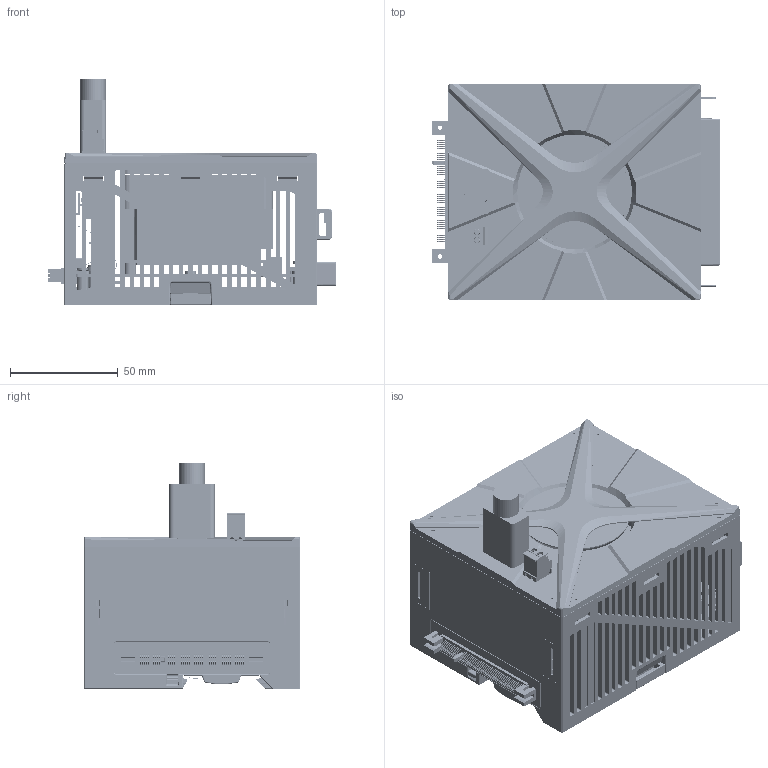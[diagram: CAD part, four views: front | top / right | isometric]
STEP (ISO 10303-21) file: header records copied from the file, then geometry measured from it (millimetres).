
FILE_DESCRIPTION((''),'2;1');
FILE_NAME('0-SX20_ASM','2023-09-12T',('lsx'),(''),'CREO PARAMETRIC BY PTC INC, 2016050','CREO PARAMETRIC BY PTC INC, 2016050','');
FILE_SCHEMA(('AUTOMOTIVE_DESIGN { 1 0 10303 214 1 1 1 1 }'));
Products named in the file (46): 0-SX-20_SKEL; 01-PCB-EX; 10025026-X0XX2C-0424; C426232_PCI-E0_5MMP; EX-TOP; EX-BOT; 01-PCB-EX_ASM; 01-PCB-JKB; HDMI-TOP; HDMI-BOT; DP-SMD_3VD51203-3D6A-7H; HDMI-G; 15EDGRC-THR-3_81-02P-13-00A_H_; 15EDGKB-3_81-02P-1Y-100A_H_; 15EDG_ASM; A3963WR; A3963WR-M1; A3963WR_ASM; 01-PPCB-JKB_ASM; 01-PCB_JKB_ZJ; M3XL5; 01-PC; SW-P-M3-L6; 01-PCB_JKB_ZJ_ASM; EGX-MXM-A1000-2000_A2_ASSY; COPPER-STUD-M3; 01-PCB-FPC; 01-EX-HARDWARE-STACKING_ASM; ZZ; 01-02-EXTENSION-MODULE_ASM; 01-02-BACK-COVER; 03-04-05-RIGHT-COVER; BACK-COVER2; BACK-COVER3; BACK-COVER1; 01-02-TOP-COVER-2; TP-1_32; 02-TOP-COVER; DDM-02; 01-02-PC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
Assembly tree (62 placements, depth 6):
  0-SX20_ASM
    0-SX-20_SKEL
    01-02-EXTENSION-MODULE_ASM
      01-EX-HARDWARE-STACKING_ASM
        01-PCB-EX_ASM
          01-PCB-EX
          10025026-X0XX2C-0424
          C426232_PCI-E0_5MMP
          EX-TOP
          EX-BOT
        01-PPCB-JKB_ASM
          01-PCB-JKB
          HDMI-TOP
          HDMI-BOT
          DP-SMD_3VD51203-3D6A-7H
          HDMI-G
          15EDG_ASM
            15EDGRC-THR-3_81-02P-13-00A_H_
            15EDGKB-3_81-02P-1Y-100A_H_
          A3963WR_ASM
            A3963WR
            A3963WR-M1
        01-PCB_JKB_ZJ_ASM
          01-PCB_JKB_ZJ
          M3XL5  x4
          01-PC
          SW-P-M3-L6  x6
        EGX-MXM-A1000-2000_A2_ASSY
        COPPER-STUD-M3  x2
        01-PCB-FPC
        A3963WR_ASM
          A3963WR
          A3963WR-M1
      ZZ
      10025026-X0XX2C-0424
    01-02-EXTENSION-MODULE-COVER_ASM
      01-EXTENSION-MODULE-COVER_ASM
        01-02-BACK-COVER
        03-04-05-RIGHT-COVER
        BACK-COVER2
        BACK-COVER3
        BACK-COVER1
        01-02-TOP-COVER-2
        TP-1_32
        02-TOP-COVER
        DDM-02
        01-02-PC
        SW-P-M3-L6  x6
        TP-2_14
      LOCK-1
      LOCK-2
Bounding box: 133.5 x 100 x 104.95 mm (x, y, z)
Volume: 338723.6 mm3; surface area: 246820.2 mm2
Topology: 362 solids, 362 shells, 15884 faces, 43980 edges, 28881 vertices
Faces by surface type: plane 10883, cylinder 3729, bspline 640, sphere 334, cone 166, torus 82, extrusion 50
Entity records: 487359 total; most frequent: CARTESIAN_POINT 89073, ORIENTED_EDGE 67098, DIRECTION 60427, EDGE_CURVE 33549, VECTOR 26237, LINE 26201, VERTEX_POINT 22258, PRESENTATION_STYLE_ASSIGNMENT 20435
